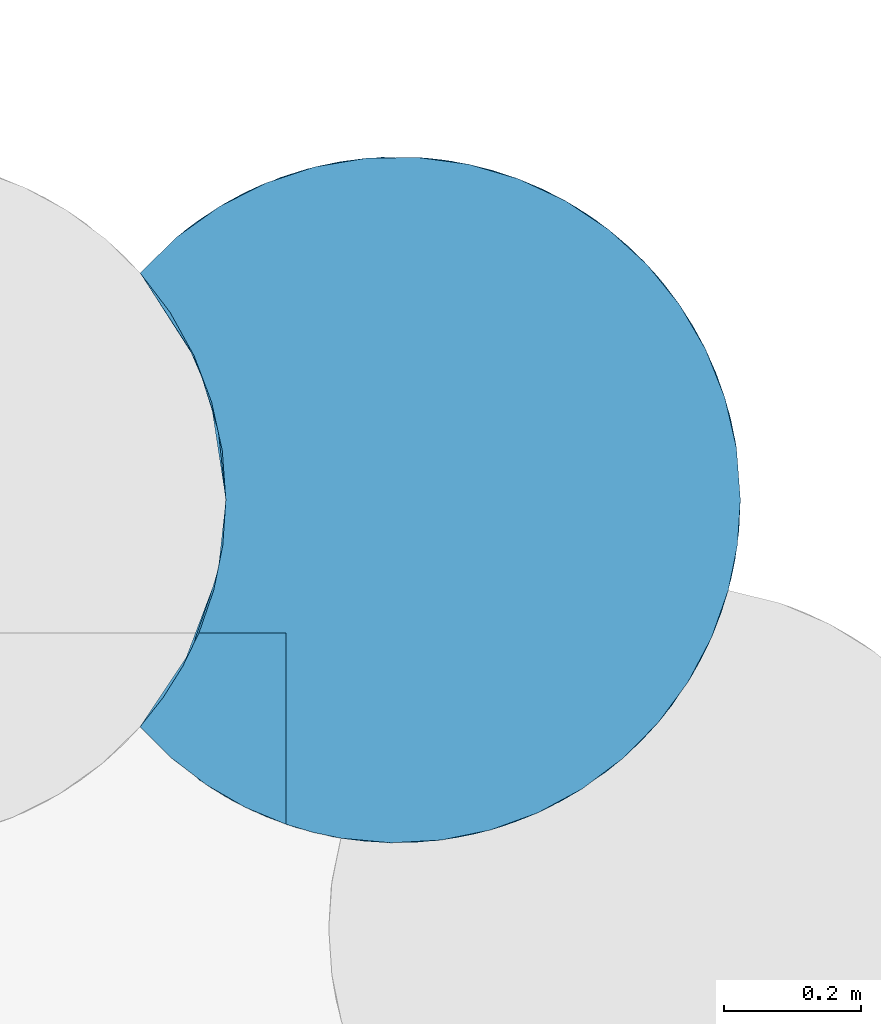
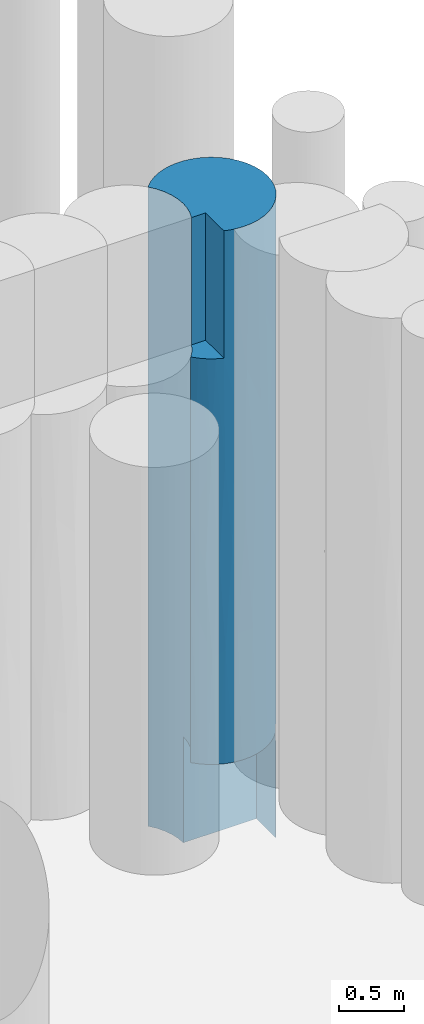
# One storey, part 98 of 104: 1 pile.
"""IFC2X3 building model written with IfcOpenShell, lengths in millimetres."""

from ifc_helpers import new_model, entity, si_unit, converted_unit, derived_unit, direction, frame, origin, place, context, subcontext, project, spatial, faceted_brep, source, transform, mapped, material, element, save


model = new_model("IFC2X3")

# Units and contexts
model_context = context("Model", 3, precision=0.01, world=origin(), true_north=direction((6.12303176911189e-17, 1.0)))
body_context = subcontext(model_context, "Body", "Model", "MODEL_VIEW")
ifc_project = project(units=[si_unit("LENGTHUNIT", "METRE", prefix="MILLI"), si_unit("AREAUNIT", "SQUARE_METRE", prefix="MILLI"), si_unit("VOLUMEUNIT", "CUBIC_METRE"), converted_unit("PLANEANGLEUNIT", "DEGREE", entity("IfcRatioMeasure", 0.0174532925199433), si_unit("PLANEANGLEUNIT", "RADIAN"), dimensions=[0, 0, 0, 0, 0, 0, 0]), si_unit("MASSUNIT", "GRAM", prefix="KILO"), derived_unit("MASSDENSITYUNIT", [(si_unit("MASSUNIT", "GRAM", prefix="KILO"), 1), (si_unit("LENGTHUNIT", "METRE"), -3)]), derived_unit("MOMENTOFINERTIAUNIT", [(si_unit("LENGTHUNIT", "METRE"), 4)]), si_unit("TIMEUNIT", "SECOND"), si_unit("FREQUENCYUNIT", "HERTZ"), si_unit("THERMODYNAMICTEMPERATUREUNIT", "DEGREE_CELSIUS"), derived_unit("THERMALTRANSMITTANCEUNIT", [(si_unit("MASSUNIT", "GRAM", prefix="KILO"), 1), (si_unit("THERMODYNAMICTEMPERATUREUNIT", "KELVIN"), -1), (si_unit("TIMEUNIT", "SECOND"), -3)]), derived_unit("VOLUMETRICFLOWRATEUNIT", [(si_unit("LENGTHUNIT", "METRE"), 3), (si_unit("TIMEUNIT", "SECOND"), -1)]), si_unit("ELECTRICCURRENTUNIT", "AMPERE"), si_unit("ELECTRICVOLTAGEUNIT", "VOLT"), si_unit("POWERUNIT", "WATT"), si_unit("FORCEUNIT", "NEWTON", prefix="KILO"), si_unit("ILLUMINANCEUNIT", "LUX"), si_unit("LUMINOUSFLUXUNIT", "LUMEN"), si_unit("LUMINOUSINTENSITYUNIT", "CANDELA"), derived_unit("USERDEFINED", [(si_unit("MASSUNIT", "GRAM", prefix="KILO"), -1), (si_unit("LENGTHUNIT", "METRE"), -2), (si_unit("TIMEUNIT", "SECOND"), 3), (si_unit("LUMINOUSFLUXUNIT", "LUMEN"), 1)]), derived_unit("LINEARVELOCITYUNIT", [(si_unit("LENGTHUNIT", "METRE"), 1), (si_unit("TIMEUNIT", "SECOND"), -1)]), si_unit("PRESSUREUNIT", "PASCAL"), derived_unit("USERDEFINED", [(si_unit("LENGTHUNIT", "METRE"), -2), (si_unit("MASSUNIT", "GRAM", prefix="KILO"), 1), (si_unit("TIMEUNIT", "SECOND"), -2)]), derived_unit("LINEARFORCEUNIT", [(si_unit("MASSUNIT", "GRAM", prefix="KILO"), 1), (si_unit("LENGTHUNIT", "METRE"), 1), (si_unit("TIMEUNIT", "SECOND"), -2), (si_unit("LENGTHUNIT", "METRE"), -1)]), derived_unit("PLANARFORCEUNIT", [(si_unit("MASSUNIT", "GRAM", prefix="KILO"), 1), (si_unit("LENGTHUNIT", "METRE"), 1), (si_unit("TIMEUNIT", "SECOND"), -2), (si_unit("LENGTHUNIT", "METRE"), -2)])], contexts=[model_context])

# Site, building, storey
site_placement = place(None, origin())
site = spatial("IfcSite", under=ifc_project, at=site_placement, Name="Theater aan de Parade", CompositionType="ELEMENT")
building_placement = place(site_placement, origin())
building = spatial("IfcBuilding", under=site, at=building_placement, Name="Theater aan de Parade", CompositionType="ELEMENT")
storey_placement = place(building_placement, frame((0.0, 0.0, -5520.0)))
storey = spatial("IfcBuildingStorey", under=building, at=storey_placement, Name="-2 kelder", CompositionType="ELEMENT", Elevation=-5520.0)

# Pile
ifc_material = material(Name="00_PBT_MAT_grout")
shared_shape = source(origin(), body_context, "Body", "Brep", [
    faceted_brep([(406.073640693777, 1000.64066188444, 0.0), (480.905919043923, 990.508642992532, 0.0), (553.359276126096, 969.22236257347, 0.0), (621.78105669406, 937.267126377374, 0.0), (684.610488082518, 895.371569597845, 0.0), (740.414269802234, 844.491058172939, 0.0), (787.919260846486, 785.785921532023, 0.0), (826.041519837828, 720.595012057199, 0.0), (853.911036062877, 650.405192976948, 0.0), (870.891488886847, 576.818096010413, 0.0), (876.595272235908, 501.510392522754, 0.0), (874.615239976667, 457.056914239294, 0.0), (868.703409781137, 413.025473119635, 0.0), (858.902679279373, 369.679706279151, 0.0), (838.595034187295, 310.313583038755, 0.0), (811.01577476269, 253.964786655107, 0.0), (776.595272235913, 201.510392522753, 0.0), (776.595272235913, 501.510392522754, 0.0), (126.595272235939, 501.510392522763, 0.0), (121.380912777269, 573.532402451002, 0.0), (105.846592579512, 644.052217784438, 0.0), (80.3163177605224, 711.598975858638, 0.0), (45.3225844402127, 774.763824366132, 0.0), (1.5952722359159, 832.229306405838, 0.0), (55.6837113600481, 884.936748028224, 0.0), (117.086743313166, 928.892333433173, 0.0), (184.40902194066, 963.099436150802, 0.0), (256.11503470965, 986.777857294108, 0.0), (330.569297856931, 999.38749551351, 0.0), (870.891488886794, 576.818096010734, 6020.0), (863.792588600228, 613.932698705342, 5003.11105987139), (853.911036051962, 650.405193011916, 6020.0), (787.737273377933, 786.049062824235, 4002.24554402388), (713.474342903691, 870.986361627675, 4214.49480631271), (713.474343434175, 870.986361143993, 5150.6467059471), (876.595272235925, 501.510392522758, 1561.53772362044), (869.028574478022, 588.167434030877, 982.273999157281), (860.47455980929, 627.450199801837, 2424.81710005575), (841.303362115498, 686.027034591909, 1297.77953165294), (765.276677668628, 816.036647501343, 1297.77822142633), (419.720833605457, 999.647106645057, 911.961423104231), (517.535032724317, 981.235296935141, 1002.94058738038), (787.919260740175, 785.785921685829, 6020.0), (808.212941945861, 753.911238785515, 5003.11241101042), (653.987856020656, 917.507212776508, 1565.1003813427), (85.5542207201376, 908.075401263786, 1047.23684319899), (684.610487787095, 895.371569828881, 6020.0), (740.414269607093, 844.49105837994, 6020.0), (293.103772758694, 994.490280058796, 1403.7044250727), (184.409021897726, 963.099436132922, 6020.0), (166.907849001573, 955.416973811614, 5165.20475973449), (117.086743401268, 928.892333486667, 6020.0), (85.554220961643, 908.075401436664, 5059.03819057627), (150.10117745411, 947.268651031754, 4309.59720319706), (841.303361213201, 686.027036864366, 4183.22179864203), (588.17431133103, 954.538327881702, 4635.97973675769), (637.227397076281, 928.208055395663, 3822.98986562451), (549.025872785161, 970.837238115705, 3822.98986823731), (736.62098374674, 848.470746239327, 3018.3298795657), (826.041519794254, 720.595012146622, 6020.0), (443.681332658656, 996.98941377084, 5200.05117479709), (553.359275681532, 969.222362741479, 6020.0), (823.947186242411, 724.840339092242, 3332.887720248), (860.909168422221, 625.768390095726, 3400.48005125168), (457.790633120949, 994.873659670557, 3057.54523841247), (293.103772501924, 994.490280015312, 3252.92938166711), (443.681332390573, 996.989413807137, 4309.59418176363), (621.781056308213, 937.267126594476, 6020.0), (876.595272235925, 501.510392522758, 4458.46227638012), (876.595272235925, 501.510392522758, 6020.0), (1.59527223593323, 832.229306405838, 3123.07441752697), (66.8035538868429, 893.975793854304, 4162.69588325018), (124.046125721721, 933.041305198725, 3107.05416607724), (177.27222419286, 960.062813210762, 970.921053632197), (55.6837115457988, 884.93674818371, 6020.0), (1.5952722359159, 832.229306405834, 6020.0), (443.681332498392, 996.989413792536, 1805.49629595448), (150.10117719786, 947.26865090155, 1904.51112814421), (245.141718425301, 983.920967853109, 2328.31690348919), (354.179871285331, 1001.00768961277, 2404.65385160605), (553.458441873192, 969.184872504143, 2006.13361782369), (876.595272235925, 501.510392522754, 3123.07541185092), (876.595272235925, 501.510392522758, 2896.92455275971), (1.5952722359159, 832.229306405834, 4571.53451529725), (293.103772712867, 994.490280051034, 4658.25591790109), (406.073640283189, 1000.64066190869, 6020.0), (480.905918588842, 990.508643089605, 6020.0), (206.669584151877, 971.749970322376, 3081.92978868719), (808.212941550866, 753.911239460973, 2447.73402889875), (330.56929754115, 999.38749548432, 6020.0), (256.115034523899, 986.777857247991, 6020.0), (66.6908950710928, 893.886840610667, 1951.92213524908), (588.174310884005, 954.538328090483, 3010.0), (667.262129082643, 908.343009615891, 3047.0283486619), (1.5952722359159, 832.229306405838, 1561.5372087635), (755.122659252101, 828.186099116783, 2170.40147178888), (1.59527223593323, 832.229306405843, 2342.30311967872), (133.951287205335, 64.3332012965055, 2001.24257932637), (104.693771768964, 81.9039411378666, 1000.0), (164.339264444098, 48.7992405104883, 1000.0), (869.09762841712, 415.246673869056, 2342.30655875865), (228.251187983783, 24.0231857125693, 2073.28564562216), (227.933220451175, 24.1220868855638, 1000.0), (849.679435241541, 339.672897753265, 1488.42075480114), (582.165210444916, 45.7242579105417, 3452.44849407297), (707.187873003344, 126.399032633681, 3500.27348466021), (641.559279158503, 77.4890781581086, 4125.35855245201), (50.1086130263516, 122.81993666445, 1000.0), (1.5952722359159, 170.791478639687, 2561.53774909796), (1.5952722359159, 170.791478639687, 1000.0), (294.285109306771, 8.33188824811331, 1000.0), (328.132090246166, 3.86461489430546, 2202.32837355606), (765.862647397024, 187.709642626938, 3978.7334529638), (764.332464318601, 185.820877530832, 3138.99305298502), (362.205020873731, 1.71751475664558, 1000.0), (464.178934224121, 9.24105348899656, 2202.32373809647), (682.522872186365, 106.025495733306, 2584.49881424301), (755.187911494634, 174.910310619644, 2309.20360042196), (281.876096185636, 10.5640841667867, 3047.55807095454), (184.200937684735, 40.0080414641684, 2916.36024720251), (88.5058481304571, 92.848571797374, 2879.35383775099), (430.385339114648, 4.41218421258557, 1000.0), (154.753383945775, 53.4186869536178, 4820.0), (225.223506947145, 24.974361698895, 3828.67409979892), (214.454241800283, 28.5301749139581, 4820.0), (47.4258617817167, 125.149529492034, 4820.0), (1.5952722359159, 170.791478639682, 4820.0), (1.5952722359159, 170.791478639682, 3258.46225090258), (396.341200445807, 1.90044634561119, 3274.84403371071), (562.491382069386, 37.3524061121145, 1000.0), (593.730777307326, 51.1192597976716, 2545.43522818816), (831.052719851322, 293.019557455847, 2856.09014139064), (862.882649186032, 385.215134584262, 3936.87782588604), (126.234907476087, 68.7059473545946, 3798.499775), (731.676954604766, 149.491928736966, 4763.75189709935), (806.099398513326, 245.5295230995, 5116.41198835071), (756.556305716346, 176.503295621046, 6020.0), (98.7649440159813, 85.8057994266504, 4820.0), (214.454241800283, 28.5301749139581, 6020.0), (254.012286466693, 16.7698313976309, 6020.0), (614.495137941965, 61.7335696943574, 5060.66629305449), (834.404720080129, 300.486738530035, 6020.0), (847.92684907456, 334.637552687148, 5032.35517168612), (858.905435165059, 369.688896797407, 6020.0), (818.415386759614, 267.427103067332, 4236.33257575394), (330.710080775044, 3.62029500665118, 5232.0910961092), (304.89887455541, 6.67746459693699, 4408.86813936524), (404.106277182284, 2.26782161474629, 4667.24845606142), (489.063765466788, 14.3237362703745, 3579.38658614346), (367.38264456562, 1.5952722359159, 6020.0), (294.285109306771, 8.33188824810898, 6020.0), (527.274513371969, 24.7549349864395, 5154.53834204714), (547.545498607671, 31.6423045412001, 4300.0534241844), (776.595272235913, 201.510392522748, 1000.0), (808.280148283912, 249.224507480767, 1818.42481962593), (623.957950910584, 66.985703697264, 1000.0), (680.819416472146, 104.713630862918, 1000.0), (732.015037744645, 149.833281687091, 1000.0), (800.042702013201, 235.630204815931, 6020.0), (440.681451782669, 5.63443868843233, 6020.0), (704.88215641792, 124.379484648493, 6020.0), (497.564275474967, 16.3645379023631, 1000.0), (872.149690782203, 434.983568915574, 6020.0), (581.573847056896, 45.4580009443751, 6020.0), (512.594838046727, 20.361644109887, 6020.0), (646.133001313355, 80.3816561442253, 6020.0), (45.3225844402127, 774.763824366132, 6020.0), (80.3163177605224, 711.598975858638, 6020.0), (105.846592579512, 644.052217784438, 6020.0), (121.380912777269, 573.532402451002, 6020.0), (126.595272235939, 501.510392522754, 6020.0), (122.192599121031, 435.303976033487, 6020.0), (109.06211389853, 370.263500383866, 6020.0), (87.4350535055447, 307.534373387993, 6020.0), (214.454241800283, 307.534373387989, 6020.0), (126.595272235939, 501.510392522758, 1000.0), (63.9612326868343, 743.813955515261, 1002.25156596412), (103.716989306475, 651.025833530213, 929.570301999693), (114.888484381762, 609.073113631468, 4980.60391091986), (55.0608520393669, 759.225830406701, 4352.20394334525), (81.2171477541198, 709.642442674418, 5041.92503417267), (117.643576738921, 595.699365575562, 2422.69339012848), (94.3024450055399, 678.287089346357, 1823.06883587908), (84.0945850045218, 703.238870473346, 2968.94577947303), (117.697831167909, 595.416071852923, 3454.20517487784), (94.3024444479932, 678.287090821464, 4114.82273324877), (126.595272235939, 501.510392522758, 1948.46227207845), (126.595272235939, 501.510392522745, 2561.53770595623), (126.595272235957, 501.510392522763, 2896.9245441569), (126.595272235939, 501.510392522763, 4458.46227207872), (126.595272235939, 501.51039252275, 3510.0), (52.6084708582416, 763.259804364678, 1951.92213442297), (105.846592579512, 358.96856726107, 1000.0), (80.3163177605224, 291.421809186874, 1000.0), (63.9612331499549, 259.206830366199, 1953.95952442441), (114.888484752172, 393.947673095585, 1953.95952435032), (94.3024456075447, 324.733697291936, 2715.0584409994), (53.5045692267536, 241.225064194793, 2910.0), (45.3225844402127, 228.25696067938, 1000.0), (35.0899489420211, 213.184016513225, 4820.0), (114.808175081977, 393.583743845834, 3984.23114692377), (119.158859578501, 415.596991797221, 3035.7688528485), (76.2818326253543, 282.919456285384, 3740.57177268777), (121.380912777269, 429.48838259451, 1000.0), (63.8150080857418, 258.943076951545, 4820.0), (87.4350535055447, 307.534373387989, 4820.0), (118.034858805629, 409.384756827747, 4962.41816817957), (776.595272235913, 501.510392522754, 1000.0), (214.454241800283, 307.534373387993, 4820.0)], [[[0, 1, 2, 3, 4, 5, 6, 7, 8, 9, 10, 11, 12, 13, 14, 15, 16, 17, 18, 19, 20, 21, 22, 23, 24, 25, 26, 27, 28]], [[29, 30, 31]], [[32, 33, 34]], [[35, 36, 37]], [[7, 38, 8]], [[39, 7, 6]], [[40, 1, 0]], [[2, 41, 3]], [[34, 42, 43]], [[3, 44, 4]], [[24, 45, 25]], [[46, 47, 34]], [[39, 6, 5]], [[40, 28, 48]], [[44, 39, 4]], [[49, 50, 51]], [[7, 39, 38]], [[52, 50, 53]], [[54, 43, 30]], [[10, 9, 36]], [[55, 56, 57]], [[58, 33, 32]], [[30, 43, 31]], [[41, 2, 1]], [[59, 43, 42]], [[60, 61, 55]], [[62, 63, 37]], [[59, 31, 43]], [[64, 65, 66]], [[55, 67, 34]], [[68, 30, 69]], [[60, 55, 66]], [[70, 71, 72]], [[25, 45, 73]], [[56, 55, 33]], [[27, 48, 28]], [[74, 52, 75]], [[40, 76, 41]], [[4, 39, 5]], [[73, 45, 77]], [[73, 27, 26]], [[48, 78, 79]], [[34, 67, 46]], [[76, 80, 41]], [[78, 48, 77]], [[63, 68, 81, 82]], [[71, 83, 52]], [[61, 67, 55]], [[41, 1, 40]], [[51, 52, 74]], [[65, 84, 60, 66]], [[85, 86, 60]], [[65, 78, 87]], [[38, 39, 88]], [[26, 25, 73]], [[84, 89, 60]], [[84, 90, 89]], [[70, 72, 91]], [[89, 85, 60]], [[50, 84, 53]], [[8, 38, 36]], [[84, 50, 90]], [[44, 92, 93]], [[53, 84, 65]], [[94, 45, 23]], [[75, 52, 83]], [[44, 93, 95]], [[64, 92, 80]], [[37, 38, 88]], [[8, 36, 9]], [[23, 45, 24]], [[91, 72, 77]], [[32, 43, 54]], [[32, 34, 43]], [[69, 30, 29]], [[63, 30, 68]], [[76, 64, 80]], [[3, 41, 44]], [[71, 52, 53]], [[34, 47, 42]], [[55, 34, 33]], [[60, 86, 61]], [[92, 44, 80]], [[44, 41, 80]], [[54, 62, 32]], [[32, 62, 58]], [[58, 88, 95]], [[56, 93, 92]], [[37, 88, 62]], [[35, 37, 82]], [[72, 71, 53]], [[70, 83, 71]], [[87, 53, 65]], [[94, 96, 70, 91]], [[77, 48, 73]], [[27, 73, 48]], [[62, 54, 63]], [[58, 62, 88]], [[63, 54, 30]], [[82, 37, 63]], [[28, 40, 0]], [[48, 76, 40]], [[91, 45, 94]], [[45, 91, 77]], [[51, 50, 52]], [[50, 49, 90]], [[64, 76, 79]], [[57, 64, 66]], [[87, 77, 72]], [[79, 78, 65]], [[64, 79, 65]], [[48, 79, 76]], [[77, 87, 78]], [[53, 87, 72]], [[93, 33, 58]], [[57, 56, 92]], [[64, 57, 92]], [[66, 55, 57]], [[33, 93, 56]], [[93, 58, 95]], [[37, 36, 38]], [[10, 36, 35]], [[88, 39, 95]], [[44, 95, 39]], [[97, 98, 99]], [[100, 35, 82, 81]], [[101, 99, 102]], [[100, 103, 35]], [[104, 105, 106]], [[107, 108, 109]], [[101, 110, 111]], [[112, 105, 113]], [[114, 115, 111]], [[116, 117, 113]], [[114, 111, 110]], [[118, 101, 111]], [[97, 119, 120]], [[115, 114, 121]], [[122, 123, 124]], [[125, 126, 127]], [[115, 128, 111]], [[115, 129, 130]], [[131, 100, 132]], [[125, 127, 133]], [[134, 135, 136]], [[122, 137, 133]], [[138, 124, 139]], [[134, 140, 106]], [[123, 133, 119]], [[141, 142, 143]], [[131, 132, 144]], [[124, 145, 139]], [[146, 145, 124]], [[124, 123, 146]], [[107, 98, 97]], [[147, 128, 148]], [[122, 133, 123]], [[149, 150, 145]], [[140, 151, 152]], [[153, 154, 117]], [[116, 155, 156]], [[115, 130, 148]], [[16, 15, 153]], [[81, 68, 132]], [[156, 157, 117]], [[68, 142, 132]], [[135, 141, 158]], [[11, 10, 35]], [[14, 103, 15]], [[145, 159, 149]], [[153, 15, 103]], [[132, 142, 144]], [[35, 12, 11]], [[160, 140, 134]], [[106, 140, 152]], [[115, 121, 161]], [[12, 103, 13]], [[162, 142, 68]], [[144, 112, 113]], [[141, 135, 142]], [[116, 156, 117]], [[157, 153, 117]], [[163, 151, 140]], [[130, 129, 155]], [[129, 115, 161]], [[119, 97, 101]], [[151, 163, 164]], [[151, 159, 147]], [[160, 134, 136]], [[103, 14, 13]], [[112, 134, 105]], [[140, 160, 165]], [[135, 144, 142]], [[68, 69, 162]], [[120, 119, 133]], [[120, 127, 108]], [[142, 162, 143]], [[125, 133, 137]], [[103, 12, 35]], [[148, 130, 104]], [[107, 97, 108]], [[165, 163, 140]], [[154, 131, 117]], [[119, 118, 123]], [[127, 120, 133]], [[108, 97, 120]], [[104, 106, 152]], [[134, 106, 105]], [[119, 101, 118]], [[146, 128, 147]], [[111, 128, 118]], [[146, 118, 128]], [[146, 123, 118]], [[159, 145, 147]], [[145, 150, 139]], [[147, 145, 146]], [[148, 104, 152]], [[104, 130, 116]], [[147, 148, 152]], [[115, 148, 128]], [[99, 101, 97]], [[110, 101, 102]], [[136, 135, 158]], [[112, 135, 134]], [[159, 151, 164]], [[147, 152, 151]], [[132, 100, 81]], [[131, 103, 100]], [[104, 116, 105]], [[116, 130, 155]], [[153, 103, 154]], [[131, 154, 103]], [[116, 113, 105]], [[135, 112, 144]], [[117, 131, 113]], [[144, 113, 131]], [[67, 61, 86, 85, 89, 90, 49, 51, 74, 75, 166, 167, 168, 169, 170, 171, 172, 173, 174, 138, 139, 150, 149, 159, 164, 163, 165, 160, 136, 158, 141, 143, 162, 69, 29, 31, 59, 42, 47, 46]], [[175, 19, 18]], [[21, 176, 22]], [[21, 20, 177]], [[169, 178, 170]], [[179, 83, 70]], [[167, 166, 180]], [[177, 181, 182]], [[168, 180, 178]], [[177, 20, 19]], [[183, 70, 96]], [[184, 185, 183]], [[181, 186, 187, 188]], [[168, 167, 180]], [[182, 176, 177]], [[168, 178, 169]], [[176, 21, 177]], [[83, 166, 75]], [[185, 178, 180]], [[170, 178, 189]], [[23, 176, 94]], [[22, 176, 23]], [[184, 188, 190, 189]], [[182, 183, 191]], [[189, 178, 184]], [[180, 179, 185]], [[83, 180, 166]], [[181, 177, 186]], [[175, 177, 19]], [[182, 181, 183]], [[186, 177, 175]], [[181, 188, 184]], [[96, 94, 191]], [[70, 183, 179]], [[181, 184, 183]], [[178, 185, 184]], [[183, 185, 179]], [[179, 180, 83]], [[94, 176, 191]], [[96, 191, 183]], [[182, 191, 176]], [[192, 193, 194, 195]], [[108, 194, 109]], [[196, 194, 197]], [[198, 109, 194]], [[127, 126, 199]], [[193, 198, 194]], [[200, 201, 196]], [[202, 127, 199]], [[195, 203, 192]], [[203, 195, 175]], [[204, 205, 202]], [[108, 197, 194]], [[201, 190, 188, 187]], [[197, 108, 127]], [[195, 187, 186, 175]], [[205, 206, 200]], [[206, 205, 172]], [[173, 172, 205]], [[127, 202, 197]], [[200, 202, 205]], [[204, 202, 199]], [[206, 171, 170]], [[196, 195, 194]], [[187, 195, 201]], [[200, 189, 190]], [[196, 197, 202]], [[206, 189, 200]], [[202, 200, 196]], [[190, 201, 200]], [[196, 201, 195]], [[189, 206, 170]], [[171, 206, 172]], [[203, 175, 207, 153, 157, 156, 155, 129, 161, 121, 114, 110, 102, 99, 98, 107, 109, 198, 193, 192]], [[207, 175, 18, 17]], [[207, 17, 16, 153]], [[137, 122, 124, 208, 205, 204, 199, 126, 125]], [[174, 208, 124, 138]], [[173, 205, 208, 174]]]),
])
pile_placement = place(storey_placement, frame((86023.4047277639, 20202.4656266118, -3840.0)))
element("IfcPile", 1, at=pile_placement, inside=storey, material=ifc_material, Name="17_PBT_SFO_grondkering_rond:Ø1000 (grondkering)", ObjectType="17_PBT_SFO_grondkering_rond:Ø1000 (grondkering)", PredefinedType="NOTDEFINED", context=body_context, shape_type="MappedRepresentation", body=[
    mapped(shared_shape, transform((0.0, 0.0, 0.0), scale=1.0)),
])

save(model, "model.ifc")
